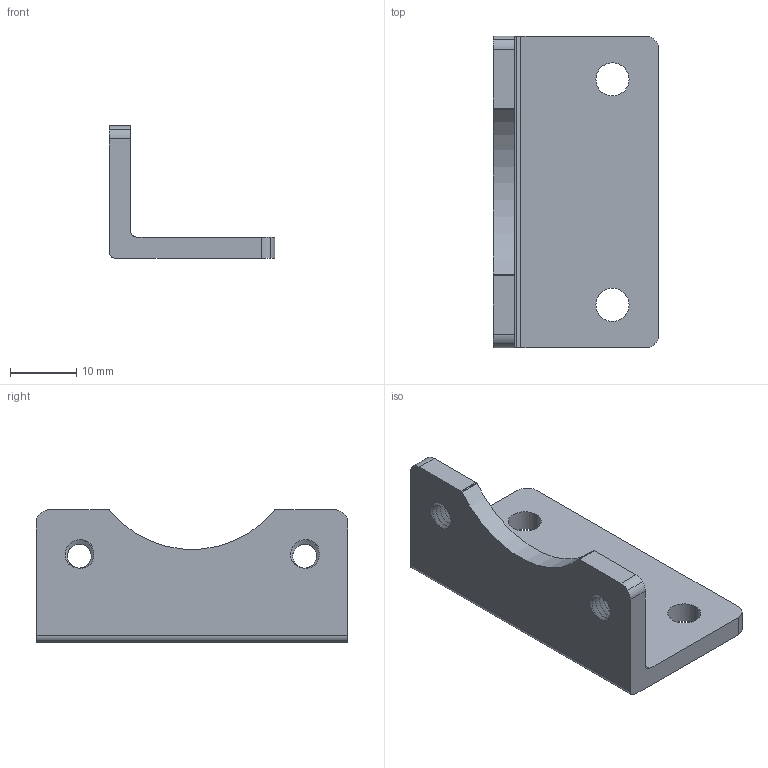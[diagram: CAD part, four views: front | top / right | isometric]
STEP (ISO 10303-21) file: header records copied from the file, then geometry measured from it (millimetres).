
FILE_DESCRIPTION(('STEP AP214'),'1');
FILE_NAME('D:\仕事\テーマ別\3DCAD\FT001 SCN5 フート\tmp0.STP',' ',(' '),(' '),'XStep 1.0',' ',' ');
FILE_SCHEMA(('automotive_design'));
Length unit declared in the file: millimetre
Bounding box: 25 x 47 x 20 mm (x, y, z)
Volume: 5721.8 mm3; surface area: 4378.6 mm2
Topology: 1 solids, 1 shells, 52 faces, 150 edges, 100 vertices
Faces by surface type: cylinder 39, plane 9, bspline 4
Entity records: 14620 total; most frequent: CARTESIAN_POINT 12851, ORIENTED_EDGE 300, DIRECTION 248, EDGE_CURVE 150, VERTEX_POINT 100, AXIS2_PLACEMENT_3D 95, EDGE_LOOP 60, LINE 58
